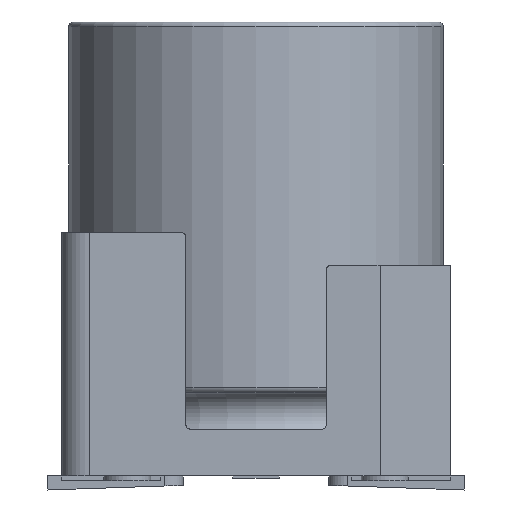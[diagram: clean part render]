
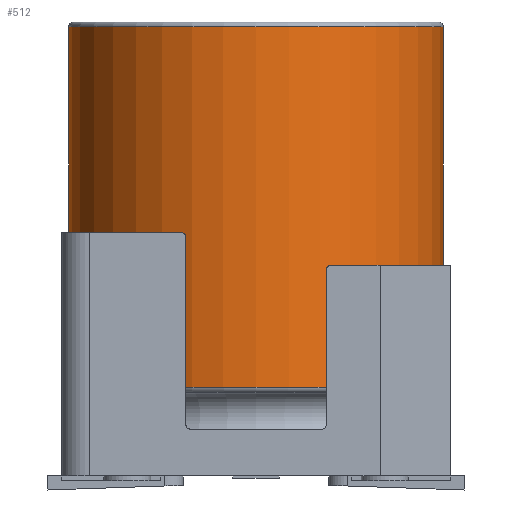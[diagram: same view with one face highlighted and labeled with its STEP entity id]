
A CAD part, front view. The second image highlights one B-rep face of the part: STEP entity #512.
In plain terms, the highlighted cylindrical face has radius 4 mm (diameter 8 mm), a full revolution.
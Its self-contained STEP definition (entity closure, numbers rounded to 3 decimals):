
#252=CYLINDRICAL_SURFACE('',#2992,4.);
#512=ADVANCED_FACE('',(#722,#723),#252,.T.);
#722=FACE_BOUND('',#802,.T.);
#723=FACE_BOUND('',#803,.T.);
#802=EDGE_LOOP('',(#1306));
#803=EDGE_LOOP('',(#1307));
#945=CIRCLE('',#2990,4.);
#946=CIRCLE('',#2991,4.);
#1306=ORIENTED_EDGE('',*,*,#2171,.T.);
#1307=ORIENTED_EDGE('',*,*,#2172,.T.);
#1877=VERTEX_POINT('',#4428);
#1878=VERTEX_POINT('',#4430);
#2171=EDGE_CURVE('',#1877,#1877,#945,.T.);
#2172=EDGE_CURVE('',#1878,#1878,#946,.T.);
#2990=AXIS2_PLACEMENT_3D('',#4427,#3462,#3463);
#2991=AXIS2_PLACEMENT_3D('',#4429,#3464,#3465);
#2992=AXIS2_PLACEMENT_3D('',#4431,#3466,#3467);
#3462=DIRECTION('',(0.,0.,1.));
#3463=DIRECTION('',(1.,0.,0.));
#3464=DIRECTION('',(0.,0.,-1.));
#3465=DIRECTION('',(-1.,0.,0.));
#3466=DIRECTION('',(0.,0.,-1.));
#3467=DIRECTION('',(-1.,0.,0.));
#4427=CARTESIAN_POINT('',(0.,0.,1.892));
#4428=CARTESIAN_POINT('',(4.,0.,1.892));
#4429=CARTESIAN_POINT('',(0.,0.,9.6));
#4430=CARTESIAN_POINT('',(-4.,0.,9.6));
#4431=CARTESIAN_POINT('',(0.,0.,0.));
